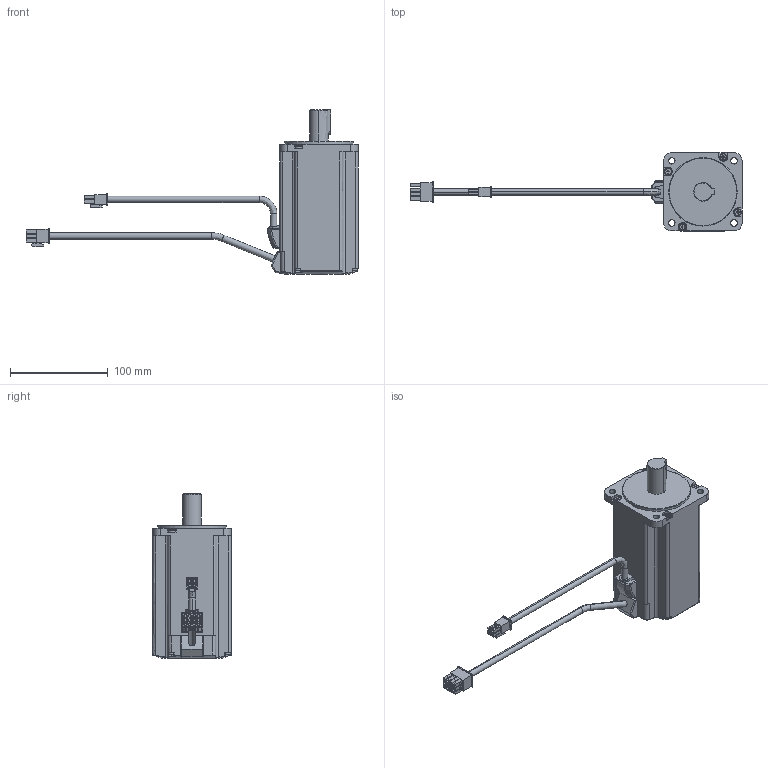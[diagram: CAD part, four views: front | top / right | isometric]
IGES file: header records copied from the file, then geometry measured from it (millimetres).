
Start section:  PTC IGES file: 10001010_rsmz-08ba_no_brake.igs
Global section: file name: 10001010_rsmz-08ba_no_brake.igs; native system: Pro/ENGINEER by Parametric Technology Corporation; preprocessor: 2004440; author: Administrator; organization: Unknown; date: 070829.201051; units: millimetre
Bounding box: 339.76 x 80 x 168 mm (x, y, z)
Volume: 773076 mm3; surface area: 72876.8 mm2
Topology: 1 solids, 1 shells, 494 faces, 1248 edges, 810 vertices
Faces by surface type: bspline 354, revolution 140
